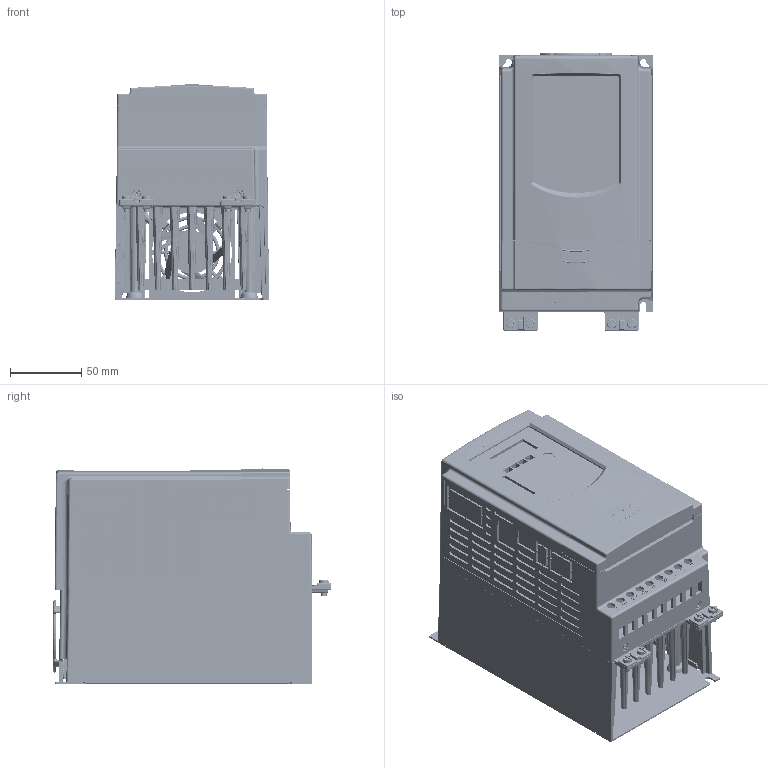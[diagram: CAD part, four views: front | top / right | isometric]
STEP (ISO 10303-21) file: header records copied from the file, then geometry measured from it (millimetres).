
FILE_DESCRIPTION((''),'2;1');
FILE_NAME('E2','2024-05-28T',('Lenovo'),(''),'CREO PARAMETRIC BY PTC INC, 2016130','CREO PARAMETRIC BY PTC INC, 2016130','');
FILE_SCHEMA(('AUTOMOTIVE_DESIGN { 1 0 10303 214 1 1 1 1 }'));
Products named in the file (1): E2
Bounding box: 108.4 x 194.35 x 150.5 mm (x, y, z)
Volume: 1003878.6 mm3; surface area: 458497.7 mm2
Topology: 1 solids, 17 shells, 5452 faces, 15426 edges, 10010 vertices
Faces by surface type: plane 2534, cylinder 1459, bspline 592, torus 416, extrusion 197, sphere 128, cone 126
Entity records: 235161 total; most frequent: CARTESIAN_POINT 77923, ORIENTED_EDGE 30559, DIRECTION 24749, EDGE_CURVE 15295, VERTEX_POINT 10008, VECTOR 8335, AXIS2_PLACEMENT_3D 8207, LINE 8138
